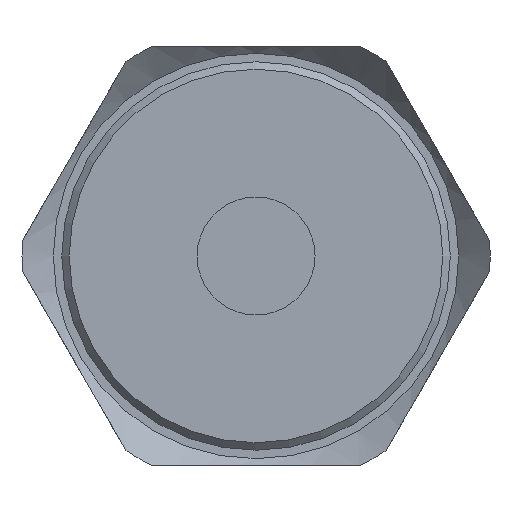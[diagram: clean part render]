
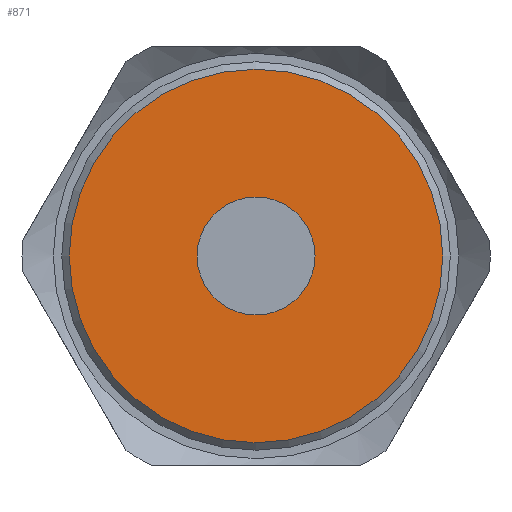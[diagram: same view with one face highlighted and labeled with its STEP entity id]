
A CAD part, left-side view. The second image highlights one B-rep face of the part: STEP entity #871.
In plain terms, the highlighted planar face has unit normal (1, 0, 0).
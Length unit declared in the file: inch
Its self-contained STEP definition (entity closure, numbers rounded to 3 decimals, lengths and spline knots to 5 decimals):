
#61=PLANE('',#1018);
#107=FACE_OUTER_BOUND('',#161,.T.);
#161=EDGE_LOOP('',(#755,#756));
#301=CIRCLE('',#1016,0.49855);
#302=CIRCLE('',#1017,0.49855);
#389=VERTEX_POINT('',#1577);
#390=VERTEX_POINT('',#1579);
#511=EDGE_CURVE('',#390,#389,#301,.T.);
#512=EDGE_CURVE('',#389,#390,#302,.T.);
#755=ORIENTED_EDGE('',*,*,#511,.T.);
#756=ORIENTED_EDGE('',*,*,#512,.T.);
#871=ADVANCED_FACE('',(#107),#61,.T.);
#1016=AXIS2_PLACEMENT_3D('',#1580,#1296,#1297);
#1017=AXIS2_PLACEMENT_3D('',#1581,#1298,#1299);
#1018=AXIS2_PLACEMENT_3D('',#1582,#1300,#1301);
#1296=DIRECTION('center_axis',(1.,0.,0.));
#1297=DIRECTION('ref_axis',(0.,-1.,0.));
#1298=DIRECTION('center_axis',(1.,0.,0.));
#1299=DIRECTION('ref_axis',(0.,-1.,0.));
#1300=DIRECTION('center_axis',(1.,0.,0.));
#1301=DIRECTION('ref_axis',(0.,-1.,0.));
#1577=CARTESIAN_POINT('',(-2.24556,0.59986,-0.34434));
#1579=CARTESIAN_POINT('',(-2.24556,-0.39725,-0.34434));
#1580=CARTESIAN_POINT('Origin',(-2.24556,0.1013,-0.34434));
#1581=CARTESIAN_POINT('Origin',(-2.24556,0.1013,-0.34434));
#1582=CARTESIAN_POINT('Origin',(-2.24556,0.1013,-0.34434));
